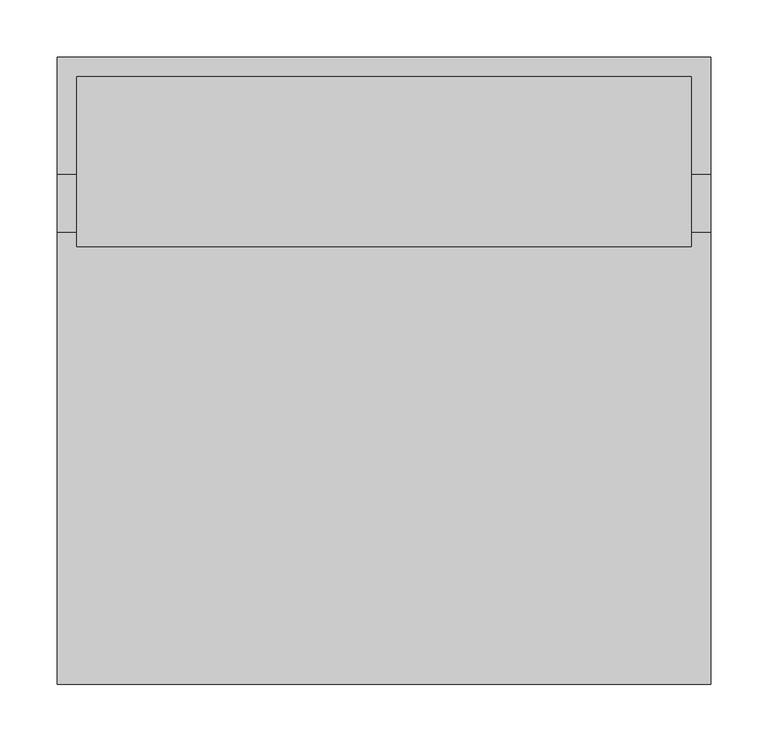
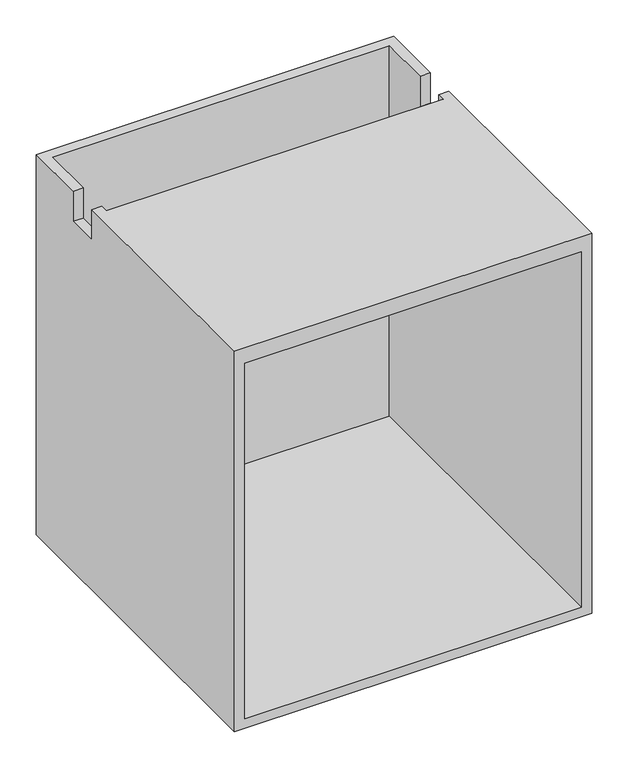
"""IFC4 building model written with IfcOpenShell, lengths in millimetres: furniture geometry."""

from ifc_helpers import new_model, si_unit, origin, place, context, project, spatial, faceted_brep, source, transform, mapped, element, save


def furniture_0d7dd6e3(model_context):
    return source(origin(), model_context, "Body", "Brep", [
        faceted_brep([(-284.1625, -272.8595, 242.8748), (284.1625, -272.8595, 242.8748), (284.1625, -272.8595, 882.65), (-284.1625, -272.8595, 882.65), (267.8811, -272.8595, 259.1562), (-267.8811, -272.8595, 259.1562), (-267.8811, -272.8595, 857.25), (267.8811, -272.8595, 857.25), (267.8811, 256.5781, 259.1562), (-267.8811, 256.5781, 259.1562), (-267.8811, 256.5781, 882.65), (-267.8811, 171.2595, 882.65), (-267.8811, 171.2595, 831.85), (-267.8811, 120.4595, 831.85), (-267.8811, 120.4595, 882.65), (-267.8811, 107.7595, 882.65), (-267.8811, 107.7595, 857.25), (267.8811, 107.7595, 857.25), (267.8811, 107.7595, 882.65), (267.8811, 120.4595, 882.65), (267.8811, 120.4595, 831.85), (267.8811, 171.2595, 831.85), (267.8811, 171.2595, 882.65), (267.8811, 256.5781, 882.65), (-284.1625, 272.8595, 242.8748), (284.1625, 272.8595, 242.8748), (284.1625, 272.8595, 882.65), (284.1625, 171.2595, 882.65), (284.1625, 171.2595, 831.85), (284.1625, 120.4595, 831.85), (284.1625, 120.4595, 882.65), (-284.1625, 120.4595, 882.65), (-284.1625, 272.8595, 882.65), (-284.1625, 171.2595, 882.65), (-284.1625, 120.4595, 831.85), (-284.1625, 171.2595, 831.85)], [[[0, 1, 2, 3], [4, 5, 6, 7]], [[5, 4, 8, 9]], [[6, 5, 9, 10, 11, 12, 13, 14, 15, 16]], [[7, 6, 16, 17]], [[4, 7, 17, 18, 19, 20, 21, 22, 23, 8]], [[1, 0, 24, 25]], [[2, 1, 25, 26, 27, 28, 29, 30]], [[3, 2, 30, 19, 18, 15, 14, 31]], [[26, 32, 33, 11, 10, 23, 22, 27]], [[0, 3, 31, 34, 35, 33, 32, 24]], [[12, 35, 34, 13]], [[28, 21, 20, 29]], [[22, 21, 28, 27]], [[35, 12, 11, 33]], [[14, 13, 34, 31]], [[29, 20, 19, 30]], [[32, 26, 25, 24]], [[10, 9, 8, 23]], [[16, 15, 18, 17]]]),
    ])


if __name__ == "__main__":
    model = new_model("IFC4")
    model_context = context("Model", 3, world=origin())
    ifc_project = project(units=[si_unit("LENGTHUNIT", "METRE", prefix="MILLI")], contexts=[model_context])
    site = spatial("IfcSite", under=ifc_project)
    building = spatial("IfcBuilding", under=site)
    placement = place(None, origin())
    furniture_shape = furniture_0d7dd6e3(model_context)
    element("IfcFurniture", 1, ObjectType="HermanMiller_CoStruc_C5040_StorageCase : 25\"H x 23\"D x 22\"W", at=placement, inside=building, context=model_context, shape_type="MappedRepresentation", body=[
        mapped(furniture_shape, transform((0.0, 0.0, 0.0), x_axis=(1.0, 0.0, 0.0), y_axis=(0.0, 1.0, 0.0), z_axis=(0.0, 0.0, 1.0))),
    ])
    save(model, "model.ifc")
